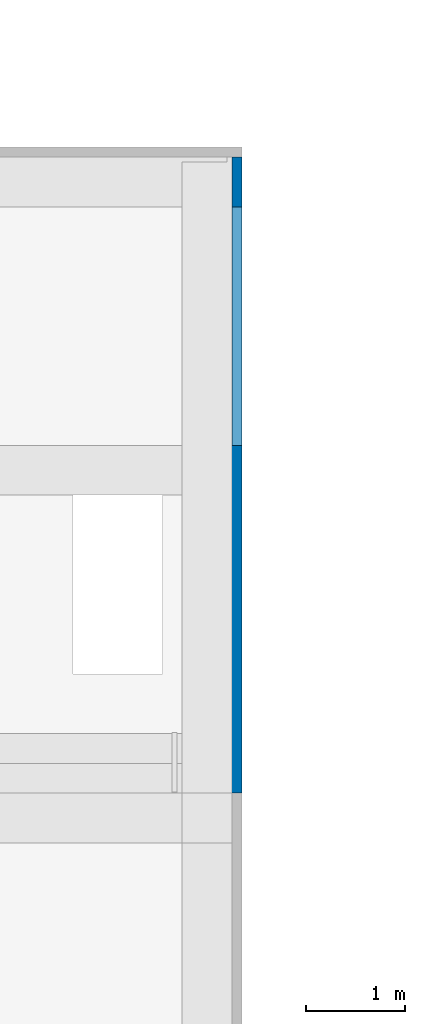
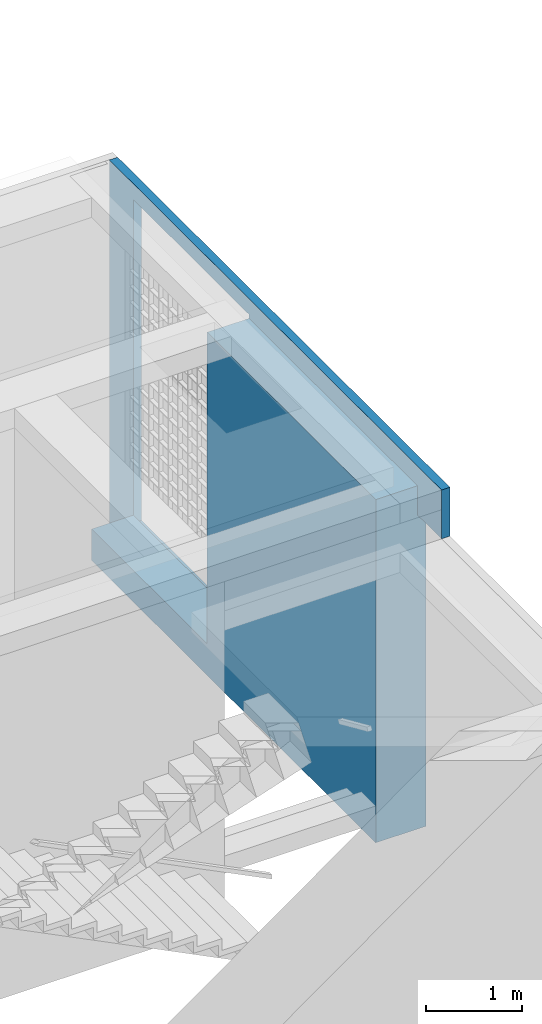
# One storey, part 10 of 17: 1 wall, 1 opening.
"""IFC4 building model written with IfcOpenShell, lengths in metres."""

from ifc_helpers import new_model, entity, si_unit, converted_unit, derived_unit, frame, origin, origin_with_axes, place, context, subcontext, project, spatial, polyline, outline, extrude, faceted_brep, material, element, save


model = new_model("IFC4")

# Units and contexts
model_context = context("Model", 3, precision=1e-05, world=origin())
body_context = subcontext(model_context, "Body", "Model", "MODEL_VIEW")
ifc_project = project(units=[si_unit("LENGTHUNIT", "METRE"), si_unit("AREAUNIT", "SQUARE_METRE"), si_unit("VOLUMEUNIT", "CUBIC_METRE"), si_unit("MASSUNIT", "GRAM", prefix="KILO"), converted_unit("PLANEANGLEUNIT", "DEGREE", entity("IfcPlaneAngleMeasure", 0.0174532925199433), si_unit("PLANEANGLEUNIT", "RADIAN"), dimensions=[0, 0, 0, 0, 0, 0, 0]), derived_unit("THERMALTRANSMITTANCEUNIT", [(si_unit("POWERUNIT", "WATT"), 1), (si_unit("THERMODYNAMICTEMPERATUREUNIT", "KELVIN"), -1), (si_unit("LENGTHUNIT", "METRE"), -2)]), derived_unit("VOLUMETRICFLOWRATEUNIT", [(si_unit("LENGTHUNIT", "METRE"), 3), (converted_unit("TIMEUNIT", "hour", entity("IfcTimeMeasure", 3600.0), si_unit("TIMEUNIT", "SECOND"), dimensions=[0, 0, 1, 0, 0, 0, 0]), -1), (si_unit("LENGTHUNIT", "METRE"), -1)])], contexts=[model_context])

# Site, building, storey
site_placement = place(None, origin())
site = spatial("IfcSite", under=ifc_project, at=site_placement, Name="3. ASŘ", CompositionType="ELEMENT")
building_placement = place(site_placement, origin())
building = spatial("IfcBuilding", under=site, at=building_placement, Name="Pavilon C", CompositionType="ELEMENT")
storey_placement = place(building_placement, frame((0.0, 0.0, 13.8)))
storey = spatial("IfcBuildingStorey", under=building, at=storey_placement, Name="Půdorys 5.NP", CompositionType="ELEMENT", Elevation=13.8)

# Wall, opening
ifc_material = material(Name="EPS")
wall_placement = place(storey_placement, frame((-1.52499999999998, 3.95, -0.9)))
wall = element("IfcWall", 1, at=wall_placement, inside=storey, material=ifc_material, Name="ZDIVO Z CDm", context=body_context, shape_type="Brep", body=[
    faceted_brep([(0.0, 0.5, -1.81898940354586e-15), (0.0, 6.4, -1.81898940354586e-15), (0.0, 6.4, 4.35), (0.0, 0.5, 4.35), (0.5, 6.4, -1.81898940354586e-15), (0.5, 6.40000000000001, 0.299999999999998), (0.5, 6.40000000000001, 0.399999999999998), (0.5, 6.4, 4.35), (0.5, 0.5, 4.35), (0.6, 4.54747350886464e-16, 3.98), (0.6, 0.500000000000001, 3.98), (0.5, 0.500000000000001, 3.98), (0.5, 4.54747350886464e-16, 3.98), (0.6, 0.500000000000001, -1.81898940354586e-15), (0.6, 4.00000000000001, 0.399999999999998), (0.6, 6.40000000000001, 0.399999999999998), (0.5, 4.00000000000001, 0.399999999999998), (0.5, 4.00000000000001, 0.299999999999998), (0.6, 6.40000000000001, 0.299999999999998), (0.6, 4.00000000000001, 0.299999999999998), (0.6, 6.9, -1.81898940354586e-15), (0.5, 6.9, -1.81898940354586e-15), (0.5, 6.9, 4.6), (0.5, 4.54747350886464e-16, 4.6), (0.6, 6.9, 4.6), (0.6, 4.54747350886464e-16, 4.6)], [[[0, 1, 2, 3]], [[1, 4, 5, 6, 7, 2]], [[8, 3, 2, 7]], [[9, 10, 11, 12]], [[10, 13, 0, 3, 8, 11]], [[14, 15, 6, 16]], [[17, 5, 18, 19]], [[16, 17, 19, 14]], [[15, 18, 5, 6]], [[20, 21, 4, 1, 0, 13]], [[6, 5, 4, 21, 22, 23, 12, 11, 8, 7]], [[21, 20, 24, 22]], [[9, 25, 24, 20, 13, 10], [18, 15, 14, 19]], [[12, 23, 25, 9]], [[25, 23, 22, 24]], [[6, 5, 17, 16]]], orient=[[False], [False], [False], [False], [False], [False], [False], [False], [False], [False], [False], [False], [False, False], [False], [False], [False]]),
])
opening_placement = place(wall_placement, frame((0.6, 4.00000000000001, 0.4), z_axis=(-1.0, 0.0, 0.0), x_axis=(0.0, 0.0, 1.0)))
element("IfcOpeningElement", 2, at=opening_placement, cuts=wall, Name="Okenní otvor", ObjectType="Opening", context=body_context, shape_type="SweptSolid", body=[
    extrude(outline(polyline([(0.0, 2.4), (4.0, 2.4), (4.0, 0.0), (0.0, 0.0), (0.0, 2.4)])), origin_with_axes(), (0.0, 0.0, 1.0), 0.1),
    extrude(outline(polyline([(0.0, 2.39999999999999), (4.0, 2.39999999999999), (4.0, 0.0), (0.0, 0.0), (0.0, 2.39999999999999)])), frame((0.0, 0.0, 0.1), z_axis=(0.0, 0.0, 1.0), x_axis=(1.0, 0.0, 0.0)), (0.0, 0.0, 1.0), 0.5),
])

save(model, "model.ifc")
